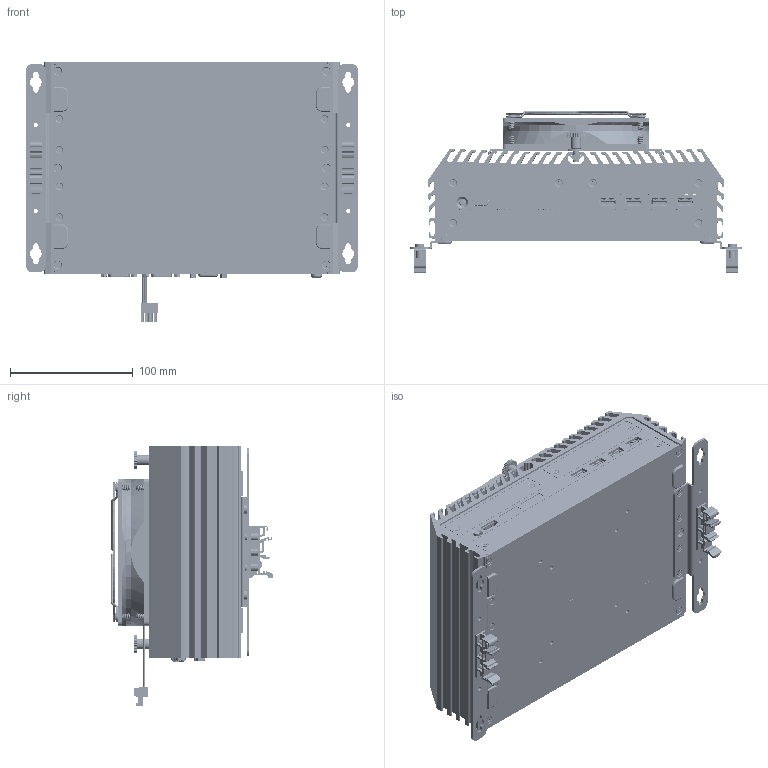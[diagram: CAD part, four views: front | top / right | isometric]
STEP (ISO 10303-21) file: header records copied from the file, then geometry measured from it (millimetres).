
FILE_DESCRIPTION (( 'STEP AP203' ), '1' );
FILE_NAME ('DX-1300+Wall Mount+DIN Rail+FAN_20260727.STEP', '2026-07-27T03:08:23', ( '' ), ( '' ), 'SwSTEP 2.0', 'SolidWorks 2014', '' );
FILE_SCHEMA (( 'CONFIG_CONTROL_DESIGN' ));
Length unit declared in the file: millimetre
Products named in the file (51): F頭_M3x18(T10)(120)+溝槽_黑(M3-1103182270); Bottom Cover(M1-408100011100); D-SUB 15_D330H1S1X22121N0(23-D0102400150); MANIFOLD_SOLID_BREP_903_1_1; Copper Stud_S38400B25N01(M3-COSD6L00000); Symbol_Panel(M0-ZZZZ5C3003); Front Matching Bezel(M1-408130084100); P頭_M5x8(十字)(太陽華司)(M3-SCREAB00002) ; 12_ASM_23_ASM; PWR_BTN_TC003; NUT-M4_12; Wall Mount Bracket(M1-208100051200); MANIFOLD_SOLID_BREP_900_1_1; Rear Bezel(M1-408130034100); Hole_Plug_M06V0(M4-RUBR0100004); 12-PLATE_9; DX-1300+Wall Mount+DIN Rail+FAN_20260727; MANIFOLD_SOLID_BREP_904_1_1; USB3.0_SMT_122-0921NA0504(23-S0142300090); MANIFOLD_SOLID_BREP_907_1_1; Rubber Foot(M4-RUFT0100001); VOLUMENK_S_VRPER1-4576_2_2; Top Cover; MANIFOLD_SOLID_BREP_908_1_1; DP1_Displayport_(23-D0242300200); DC_IN1_5EHDRM-03P_8(23-D0341500030); Din Rail-塑膠-町洋(M5-DINRZ790000); MANIFOLD_SOLID_BREP_901_1_1; Top Cove(M1-408100006300); WHDM-19FLBSDR; 外接電源B-4腳; RUUVI_1_1; MANIFOLD_SOLID_BREP_899_1_1; Front Bezel(M1-408120024100); Audio Jack_雙層_T-A032134001(23-D0262300090); 120_X_120_X_25_DC_FAN_ASM_3_ASM_ASM; Small Matching Bezel(M1-413100084102); Terminal Block_ECH350R-02P(23-D0341500020); ROTOR_120MM_FAN_2_2; Main Board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
Assembly tree (107 placements, depth 4):
  DX-1300+Wall Mount+DIN Rail+FAN_20260727
    Top Cove(M1-408100006300)
      Top Cover
    Bottom Cover(M1-408100011100)
    Front Bezel(M1-408120024100)
    Rear Bezel(M1-408130034100)
    Front Matching Bezel(M1-408130084100)
    Small Matching Bezel(M1-413100084102)  x4
    Main Board
      DP1_Displayport_(23-D0242300200)
      Terminal Block_ECH350R-02P(23-D0341500020)
      Audio Jack_雙層_T-A032134001(23-D0262300090)
      D-SUB 9_雙層_D20H1P1PA112A111N2(23-D0101100181)  x2
      Terminal Block_ECH350R-04P(23-D0341500040)
      D-SUB 15_D330H1S1X22121N0(23-D0102400150)
      RJ45+USB3.0x2_三層_JFM38U1B_B313_4F(23-D0202300320)  x2
      DC_IN1_5EHDRM-03P_8(23-D0341500030)
      USB3.0_SMT_122-0921NA0504(23-S0142300090)  x4
      WHDM-19FLBSDR
      PWR_BTN_TC003
    Copper Stud_S38400B25N01(M3-COSD6L00000)  x10
    F頭_M3x5(T10)(120)_黑(M3-N103052230)  x16
    F頭_M3X8(T10)(90)_黑(M3-N103082260)  x6
    F頭_M3x18(T10)(120)+溝槽_黑(M3-1103182270)  x2
    P頭_M5x8(十字)(太陽華司)(M3-SCREAB00002) 
    Symbol_Panel(M0-ZZZZ5C3003)
    Hole_Plug_M06V0(M4-RUBR0100004)  x3
    Rubber Foot(M4-RUFT0100001)  x4
    Wall Mount Bracket(M1-208100051200)  x2
    Din Rail-塑膠-町洋(M5-DINRZ790000)  x2
    Din Rail-塑膠-町洋(M5-DINRZ790000)-Screw-沙拉-90-十字-M3X10.5自攻_M3*4  x4
    12_ASM_23_ASM
      12-PLATE_9
      M5-SP_3  x2
      120_X_120_X_25_DC_FAN_ASM_3_ASM_ASM
        ROTOR_120MM_FAN_2_2
        VOLUMENK_S_VRPER1-4576_2_2
      NUT-M4_12  x2
      RUUVI_1_1  x8
      RITILA_ASM_1_ASM_4_ASM
        MANIFOLD_SOLID_BREP_899_1_1
        MANIFOLD_SOLID_BREP_900_1_1
        MANIFOLD_SOLID_BREP_901_1_1
        MANIFOLD_SOLID_BREP_902_1_1
        MANIFOLD_SOLID_BREP_903_1_1
        MANIFOLD_SOLID_BREP_904_1_1
        MANIFOLD_SOLID_BREP_905_1_1
        MANIFOLD_SOLID_BREP_906_1_1
        MANIFOLD_SOLID_BREP_907_1_1
        MANIFOLD_SOLID_BREP_908_1_1
      外接電源B-4腳
Bounding box: 271 x 132.17 x 212.09 mm (x, y, z)
Volume: 907957 mm3; surface area: 623485.7 mm2
Topology: 141 solids, 291 shells, 23175 faces, 65495 edges, 42413 vertices
Faces by surface type: plane 13519, cylinder 7436, bspline 1293, cone 765, torus 162
Entity records: 446785 total; most frequent: CARTESIAN_POINT 138922, ORIENTED_EDGE 66465, DIRECTION 56349, EDGE_CURVE 33872, LINE 22329, VECTOR 22329, VERTEX_POINT 22104, AXIS2_PLACEMENT_3D 17010
